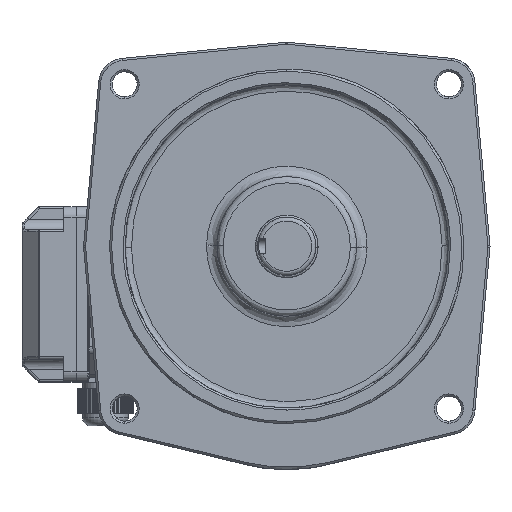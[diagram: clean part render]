
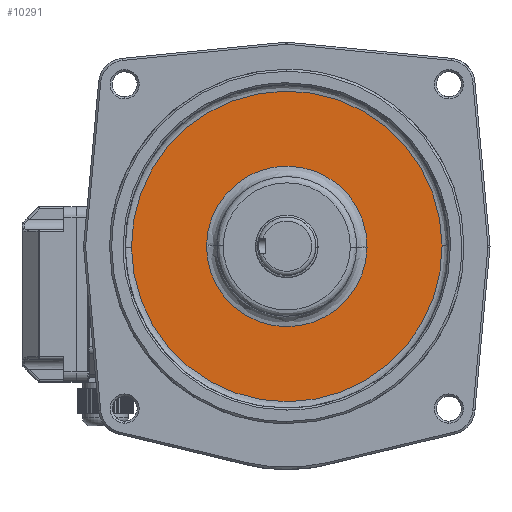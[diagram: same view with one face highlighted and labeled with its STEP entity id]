
A CAD part, top view. The second image highlights one B-rep face of the part: STEP entity #10291.
In plain terms, the highlighted planar face has unit normal (0, 0, 1).
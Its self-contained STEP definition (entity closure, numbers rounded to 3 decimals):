
#3468 = DIRECTION ( 'NONE',  ( 1., 0., 0. ) ) ;
#4546 = CARTESIAN_POINT ( 'NONE',  ( 43.841, 119.278, 46.836 ) ) ;
#6892 = ORIENTED_EDGE ( 'NONE', *, *, #19598, .F. ) ;
#10291 = ADVANCED_FACE ( 'NONE', ( #90091, #65857 ), #74635, .T. ) ;
#12380 = EDGE_LOOP ( 'NONE', ( #29775, #95639 ) ) ;
#17413 = ORIENTED_EDGE ( 'NONE', *, *, #91092, .F. ) ;
#18436 = AXIS2_PLACEMENT_3D ( 'NONE', #46091, #80196, #63671 ) ;
#19598 = EDGE_CURVE ( 'NONE', #23336, #87690, #32443, .T. ) ;
#19761 = VERTEX_POINT ( 'NONE', #76984 ) ;
#23043 = DIRECTION ( 'NONE',  ( 1., 0., 0. ) ) ;
#23336 = VERTEX_POINT ( 'NONE', #75463 ) ;
#25387 = AXIS2_PLACEMENT_3D ( 'NONE', #4546, #82001, #3468 ) ;
#29775 = ORIENTED_EDGE ( 'NONE', *, *, #92485, .F. ) ;
#32443 = CIRCLE ( 'NONE', #25387, 38.5 ) ;
#40081 = CARTESIAN_POINT ( 'NONE',  ( 43.841, 119.278, 46.836 ) ) ;
#40770 = EDGE_CURVE ( 'NONE', #19761, #84393, #97527, .T. ) ;
#41164 = DIRECTION ( 'NONE',  ( 0., 0., -1. ) ) ;
#43524 = AXIS2_PLACEMENT_3D ( 'NONE', #40081, #41164, #23043 ) ;
#43611 = AXIS2_PLACEMENT_3D ( 'NONE', #50459, #48806, #92252 ) ;
#46091 = CARTESIAN_POINT ( 'NONE',  ( 43.841, 119.278, 46.836 ) ) ;
#48806 = DIRECTION ( 'NONE',  ( 0., 0., 1. ) ) ;
#50459 = CARTESIAN_POINT ( 'NONE',  ( 43.841, 119.278, 46.836 ) ) ;
#55280 = CARTESIAN_POINT ( 'NONE',  ( 118.338, 119.951, 46.836 ) ) ;
#56274 = CARTESIAN_POINT ( 'NONE',  ( 43.841, 119.278, 46.836 ) ) ;
#57499 = EDGE_LOOP ( 'NONE', ( #6892, #17413 ) ) ;
#60988 = CIRCLE ( 'NONE', #43524, 74.5 ) ;
#63671 = DIRECTION ( 'NONE',  ( 1., 0., 0. ) ) ;
#65857 = FACE_BOUND ( 'NONE', #57499, .T. ) ;
#70256 = CARTESIAN_POINT ( 'NONE',  ( 82.337, 118.712, 46.836 ) ) ;
#74635 = PLANE ( 'NONE',  #43611 ) ;
#75463 = CARTESIAN_POINT ( 'NONE',  ( 5.345, 119.844, 46.836 ) ) ;
#76984 = CARTESIAN_POINT ( 'NONE',  ( -30.656, 118.605, 46.836 ) ) ;
#80196 = DIRECTION ( 'NONE',  ( 0., 0., -1. ) ) ;
#82001 = DIRECTION ( 'NONE',  ( 0., 0., 1. ) ) ;
#84393 = VERTEX_POINT ( 'NONE', #55280 ) ;
#87690 = VERTEX_POINT ( 'NONE', #70256 ) ;
#90091 = FACE_OUTER_BOUND ( 'NONE', #12380, .T. ) ;
#90943 = DIRECTION ( 'NONE',  ( 0., 0., 1. ) ) ;
#91092 = EDGE_CURVE ( 'NONE', #87690, #23336, #106604, .T. ) ;
#92252 = DIRECTION ( 'NONE',  ( 0., 1., 0. ) ) ;
#92485 = EDGE_CURVE ( 'NONE', #84393, #19761, #60988, .T. ) ;
#95639 = ORIENTED_EDGE ( 'NONE', *, *, #40770, .F. ) ;
#97527 = CIRCLE ( 'NONE', #18436, 74.5 ) ;
#99207 = DIRECTION ( 'NONE',  ( 1., 0., 0. ) ) ;
#106604 = CIRCLE ( 'NONE', #108354, 38.5 ) ;
#108354 = AXIS2_PLACEMENT_3D ( 'NONE', #56274, #90943, #99207 ) ;
